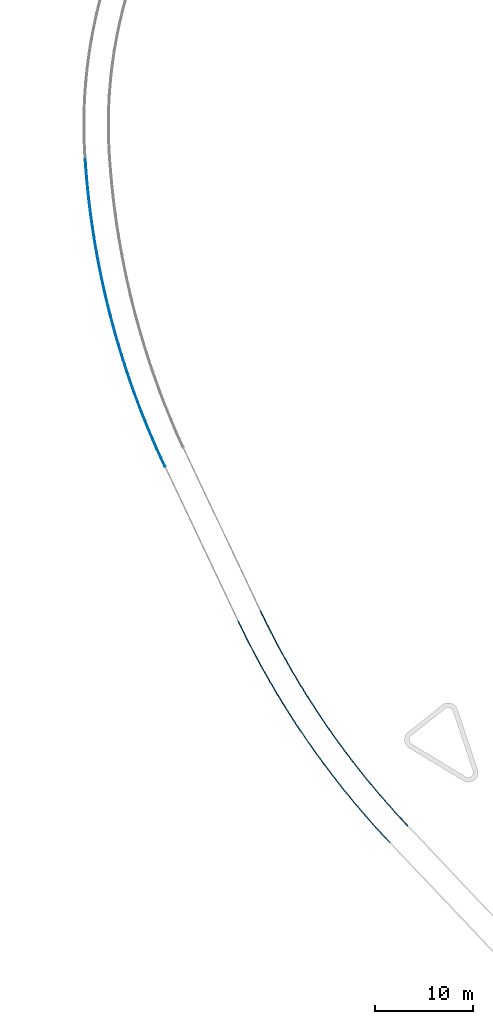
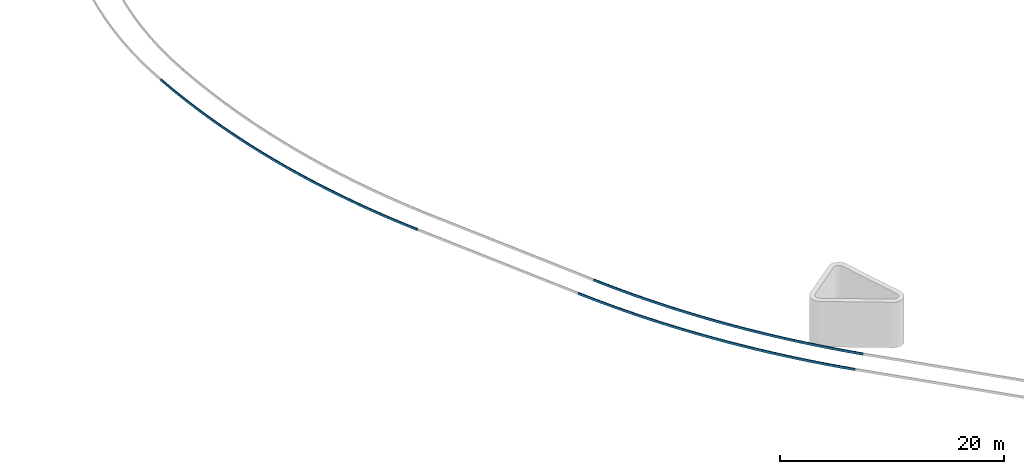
# One storey, part 88 of 112: 3 beams.
"""IFC2X3 building model written with IfcOpenShell, lengths in millimetres."""

from ifc_helpers import new_model, entity, si_unit, converted_unit, derived_unit, direction, frame, origin, place, context, subcontext, project, spatial, faceted_brep, material, type_object, element, save


model = new_model("IFC2X3")

# Units and contexts
model_context = context("Model", 3, precision=0.01, world=origin(), true_north=direction((6.123031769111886e-17, 1.0)))
body_context = subcontext(model_context, "Body", "Model", "MODEL_VIEW")
ifc_project = project(units=[si_unit("LENGTHUNIT", "METRE", prefix="MILLI"), si_unit("AREAUNIT", "SQUARE_METRE"), si_unit("VOLUMEUNIT", "CUBIC_METRE"), converted_unit("PLANEANGLEUNIT", "DEGREE", entity("IfcRatioMeasure", 0.017453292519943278), si_unit("PLANEANGLEUNIT", "RADIAN"), dimensions=[0, 0, 0, 0, 0, 0, 0]), si_unit("MASSUNIT", "GRAM", prefix="KILO"), derived_unit("MASSDENSITYUNIT", [(si_unit("MASSUNIT", "GRAM", prefix="KILO"), 1), (si_unit("LENGTHUNIT", "METRE"), -3)]), derived_unit("MOMENTOFINERTIAUNIT", [(si_unit("LENGTHUNIT", "METRE"), 4)]), si_unit("TIMEUNIT", "SECOND"), si_unit("FREQUENCYUNIT", "HERTZ"), si_unit("THERMODYNAMICTEMPERATUREUNIT", "DEGREE_CELSIUS"), derived_unit("THERMALTRANSMITTANCEUNIT", [(si_unit("MASSUNIT", "GRAM", prefix="KILO"), 1), (si_unit("THERMODYNAMICTEMPERATUREUNIT", "KELVIN"), -1), (si_unit("TIMEUNIT", "SECOND"), -3)]), derived_unit("THERMALCONDUCTANCEUNIT", [(si_unit("MASSUNIT", "GRAM", prefix="KILO"), 1), (si_unit("LENGTHUNIT", "METRE"), 1), (si_unit("THERMODYNAMICTEMPERATUREUNIT", "KELVIN"), -1), (si_unit("TIMEUNIT", "SECOND"), -3)]), derived_unit("VOLUMETRICFLOWRATEUNIT", [(si_unit("LENGTHUNIT", "METRE"), 3), (si_unit("TIMEUNIT", "SECOND"), -1)]), derived_unit("MASSFLOWRATEUNIT", [(si_unit("MASSUNIT", "GRAM", prefix="KILO"), 1), (si_unit("TIMEUNIT", "SECOND"), -1)]), derived_unit("ROTATIONALFREQUENCYUNIT", [(si_unit("TIMEUNIT", "SECOND"), -1)]), si_unit("ELECTRICCURRENTUNIT", "AMPERE"), si_unit("ELECTRICVOLTAGEUNIT", "VOLT"), si_unit("POWERUNIT", "WATT"), converted_unit("FORCEUNIT", "KIP", entity("IfcRatioMeasure", 2.088543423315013e-05), si_unit("FORCEUNIT", "NEWTON"), dimensions=[1, 1, -2, 0, 0, 0, 0]), si_unit("ILLUMINANCEUNIT", "LUX"), si_unit("LUMINOUSFLUXUNIT", "LUMEN"), si_unit("LUMINOUSINTENSITYUNIT", "CANDELA"), derived_unit("USERDEFINED", [(si_unit("MASSUNIT", "GRAM", prefix="KILO"), -1), (si_unit("LENGTHUNIT", "METRE"), -2), (si_unit("TIMEUNIT", "SECOND"), 3), (si_unit("LUMINOUSFLUXUNIT", "LUMEN"), 1)]), derived_unit("USERDEFINED", [(si_unit("MASSUNIT", "GRAM", prefix="KILO"), 1), (si_unit("LENGTHUNIT", "METRE"), 3), (si_unit("TIMEUNIT", "SECOND"), -3), (si_unit("ELECTRICCURRENTUNIT", "AMPERE"), -2)]), derived_unit("USERDEFINED", [(si_unit("LENGTHUNIT", "METRE"), 2), (si_unit("TIMEUNIT", "SECOND"), -2)]), derived_unit("SOUNDPOWERUNIT", [(si_unit("MASSUNIT", "GRAM", prefix="KILO"), 1), (si_unit("LENGTHUNIT", "METRE"), 2), (si_unit("TIMEUNIT", "SECOND"), -3)]), derived_unit("SOUNDPRESSUREUNIT", [(si_unit("MASSUNIT", "GRAM", prefix="KILO"), 1), (si_unit("LENGTHUNIT", "METRE"), -1), (si_unit("TIMEUNIT", "SECOND"), -2)]), derived_unit("LINEARVELOCITYUNIT", [(si_unit("LENGTHUNIT", "METRE"), 1), (si_unit("TIMEUNIT", "SECOND"), -1)]), si_unit("PRESSUREUNIT", "PASCAL"), derived_unit("USERDEFINED", [(si_unit("LENGTHUNIT", "METRE"), -2), (si_unit("MASSUNIT", "GRAM", prefix="KILO"), 1), (si_unit("TIMEUNIT", "SECOND"), -2)]), derived_unit("LINEARFORCEUNIT", [(si_unit("MASSUNIT", "GRAM", prefix="KILO"), 1), (si_unit("LENGTHUNIT", "METRE"), 1), (si_unit("TIMEUNIT", "SECOND"), -2), (si_unit("LENGTHUNIT", "METRE"), -1)]), derived_unit("PLANARFORCEUNIT", [(si_unit("MASSUNIT", "GRAM", prefix="KILO"), 1), (si_unit("LENGTHUNIT", "METRE"), 1), (si_unit("TIMEUNIT", "SECOND"), -2), (si_unit("LENGTHUNIT", "METRE"), -2)]), derived_unit("SPECIFICHEATCAPACITYUNIT", [(si_unit("LENGTHUNIT", "METRE"), 2), (si_unit("TIMEUNIT", "SECOND"), -2), (si_unit("THERMODYNAMICTEMPERATUREUNIT", "KELVIN"), -1)]), derived_unit("VAPORPERMEABILITYUNIT", [(si_unit("TIMEUNIT", "SECOND"), 1), (si_unit("LENGTHUNIT", "METRE"), -1)]), derived_unit("DYNAMICVISCOSITYUNIT", [(si_unit("MASSUNIT", "GRAM", prefix="KILO"), 1), (si_unit("LENGTHUNIT", "METRE"), -1), (si_unit("TIMEUNIT", "SECOND"), -1)]), derived_unit("THERMALEXPANSIONCOEFFICIENTUNIT", [(si_unit("THERMODYNAMICTEMPERATUREUNIT", "KELVIN"), -1)])], contexts=[model_context])

# Site, building, storey
site_placement = place(None, frame((0.0, 0.0, 0.0), z_axis=(0.0, 0.0, 1.0), x_axis=(0.8191520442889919, 0.5735764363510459, 0.0)))
site = spatial("IfcSite", under=ifc_project, at=site_placement, Name="Default", CompositionType="ELEMENT")
building_placement = place(site_placement, origin())
building = spatial("IfcBuilding", under=site, at=building_placement, CompositionType="ELEMENT")
storey_placement = place(building_placement, frame((0.0, 0.0, -3600.0)))
storey = spatial("IfcBuildingStorey", under=building, at=storey_placement, Name="0.UG -3.60", CompositionType="ELEMENT", Elevation=-3600.0000000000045)

# Beams
ifc_material = material(Name="Paveta_bordur")
beam_type_1 = type_object("IfcBeamType", Name="Beam-180", PredefinedType="NOTDEFINED")
beam_1_placement = place(storey_placement, frame((-114850.72193368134, -19554.204899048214, 1860.0)))
element("IfcBeam", 1, at=beam_1_placement, inside=storey, type_object=beam_type_1, material=ifc_material, Name="Beam-180:Beam-180", ObjectType="Beam-180:Beam-180", context=body_context, shape_type="Brep", body=[
    faceted_brep([(1301.0620911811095, 26633.571473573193, 250.0), (1301.0620911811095, 26633.571473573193, 0.0), (1202.482560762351, 26650.36659734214, 0.0), (1202.482560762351, 26650.36659734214, 250.0), (922.9068255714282, 1.5952722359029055, 0.0), (1021.8170191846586, 16.31850555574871, 0.0), (1021.8170191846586, 16.31850555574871, 250.0), (922.9068255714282, 1.5952722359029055, 250.0), (108.74686749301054, 8192.38099732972, 0.0), (69.4332657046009, 9220.904965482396, 0.0), (30.119663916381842, 10249.428933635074, 0.0), (15.85746807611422, 11278.605158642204, 0.0), (1.5952722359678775, 12307.781383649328, 0.0), (12.392936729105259, 13336.999787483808, 0.0), (23.190601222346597, 14366.218191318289, 0.0), (59.0417253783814, 15394.868670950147, 0.0), (94.89284953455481, 16423.519150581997, 0.0), (155.7761814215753, 17450.991939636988, 0.0), (216.65951330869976, 18478.46472869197, 0.0), (302.5389623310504, 19504.150758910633, 0.0), (388.4184113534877, 20529.83678912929, 0.0), (499.243069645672, 21553.128051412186, 0.0), (610.0677279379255, 22576.419313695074, 0.0), (745.771900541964, 23596.709218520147, 0.0), (881.4760731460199, 24616.99912334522, 0.0), (1004.5823994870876, 25396.797692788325, 0.0), (1134.5674364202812, 25619.06603018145, 0.0), (980.4352682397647, 24602.6089285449, 0.0), (838.6884292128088, 23584.350808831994, 0.0), (709.3479263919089, 22564.442578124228, 0.0), (592.4329281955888, 21543.035388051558, 0.0), (487.96076156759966, 20520.2806123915, 0.0), (395.9469094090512, 19496.329824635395, 0.0), (316.40500828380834, 18471.334775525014, 0.0), (249.34684639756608, 17445.447370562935, 0.0), (194.78236185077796, 16418.81964749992, 0.0), (152.71964116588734, 15391.603753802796, 0.0), (123.16491808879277, 14363.95192410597, 0.0), (106.12257266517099, 13336.01645765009, 0.0), (101.59513059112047, 12307.949695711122, 0.0), (109.58326283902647, 11279.903999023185, 0.0), (130.085785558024, 10252.031725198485, 0.0), (163.09966024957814, 9224.485206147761, 0.0), (208.61999421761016, 8197.41672550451, 0.0), (266.64004129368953, 7170.978496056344, 0.0), (337.15120283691, 6145.3226371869, 0.0), (420.1430290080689, 5120.6011523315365, 0.0), (515.6032203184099, 4096.96590645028, 0.0), (623.5176294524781, 3074.5686035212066, 0.0), (743.8702633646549, 2053.5607640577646, 0.0), (876.6432856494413, 1034.0937026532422, 0.0), (783.7688847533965, 1021.4225839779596, 0.0), (644.6309439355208, 2041.2498957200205, 0.0), (530.3622731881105, 3064.162298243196, 0.0), (416.0936024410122, 4087.0747007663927, 0.0), (326.7619382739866, 5112.465829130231, 0.0), (237.43027410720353, 6137.856957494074, 0.0), (173.08857080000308, 7165.118977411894, 0.0), (881.4760731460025, 24616.99912334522, 250.0), (1041.979316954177, 25633.682860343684, 250.0), (610.0677279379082, 22576.419313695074, 250.0), (745.771900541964, 23596.709218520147, 250.0), (302.5389623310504, 19504.150758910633, 250.0), (388.4184113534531, 20529.836789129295, 250.0), (216.6595133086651, 18478.46472869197, 250.0), (59.0417253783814, 15394.868670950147, 250.0), (94.8928495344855, 16423.519150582, 250.0), (23.19060122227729, 14366.21819131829, 250.0), (155.7761814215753, 17450.991939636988, 250.0), (499.2430696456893, 21553.128051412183, 250.0), (1.5952722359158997, 12307.781383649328, 250.0), (12.392936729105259, 13336.999787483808, 250.0), (30.119663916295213, 10249.428933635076, 250.0), (108.74686749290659, 8192.380997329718, 250.0), (69.4332657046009, 9220.904965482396, 250.0), (15.85746807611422, 11278.605158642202, 250.0), (326.7619382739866, 5112.465829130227, 250.0), (237.43027410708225, 6137.856957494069, 250.0), (416.09360244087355, 4087.0747007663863, 250.0), (751.3501185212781, 1259.039606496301, 250.0), (644.6309439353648, 2041.2498957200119, 250.0), (530.3622731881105, 3064.162298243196, 250.0), (173.08857080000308, 7165.118977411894, 250.0), (208.61999421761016, 8197.41672550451, 250.0), (163.09966024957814, 9224.485206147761, 250.0), (130.085785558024, 10252.031725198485, 250.0), (109.58326283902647, 11279.903999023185, 250.0), (101.59513059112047, 12307.949695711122, 250.0), (106.12257266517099, 13336.01645765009, 250.0), (123.16491808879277, 14363.95192410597, 250.0), (152.71964116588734, 15391.603753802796, 250.0), (194.78236185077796, 16418.81964749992, 250.0), (249.34684639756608, 17445.447370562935, 250.0), (316.40500828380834, 18471.334775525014, 250.0), (395.9469094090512, 19496.329824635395, 250.0), (487.96076156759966, 20520.2806123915, 250.0), (592.4329281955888, 21543.035388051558, 250.0), (709.3479263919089, 22564.442578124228, 250.0), (838.6884292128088, 23584.350808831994, 250.0), (980.4352682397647, 24602.6089285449, 250.0), (1134.5674364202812, 25619.06603018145, 250.0), (876.6432856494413, 1034.0937026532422, 250.0), (743.8702633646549, 2053.5607640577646, 250.0), (623.5176294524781, 3074.5686035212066, 250.0), (515.6032203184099, 4096.96590645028, 250.0), (420.1430290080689, 5120.6011523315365, 250.0), (337.15120283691, 6145.3226371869, 250.0), (266.64004129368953, 7170.978496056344, 250.0)], [[[0, 1, 2, 3]], [[4, 5, 6, 7]], [[8, 9, 10, 11, 12, 13, 14, 15, 16, 17, 18, 19, 20, 21, 22, 23, 24, 25, 2, 1, 26, 27, 28, 29, 30, 31, 32, 33, 34, 35, 36, 37, 38, 39, 40, 41, 42, 43, 44, 45, 46, 47, 48, 49, 50, 5, 4, 51, 52, 53, 54, 55, 56, 57]], [[2, 25, 24, 58, 59, 3]], [[58, 24, 23, 22, 60, 61]], [[62, 63, 20, 19, 18, 64]], [[65, 66, 16, 15, 14, 67]], [[68, 64, 18, 17, 16, 66]], [[69, 60, 22, 21, 20, 63]], [[67, 14, 13, 12, 70, 71]], [[72, 10, 9, 8, 73, 74]], [[70, 12, 11, 10, 72, 75]], [[76, 77, 56, 55, 54, 78]], [[51, 4, 7, 79, 80, 52]], [[81, 78, 54, 53, 52, 80]], [[82, 73, 8, 57, 56, 77]], [[83, 84, 85, 86, 87, 88, 89, 90, 91, 92, 93, 94, 95, 96, 97, 98, 99, 100, 0, 3, 59, 58, 61, 60, 69, 63, 62, 64, 68, 66, 65, 67, 71, 70, 75, 72, 74, 73, 82, 77, 76, 78, 81, 80, 79, 7, 6, 101, 102, 103, 104, 105, 106, 107]], [[26, 1, 0, 100]], [[26, 100, 99, 27]], [[97, 96, 30, 29]], [[98, 97, 29, 28]], [[28, 27, 99, 98]], [[94, 93, 33, 32]], [[95, 94, 32, 31]], [[92, 91, 35, 34]], [[90, 89, 37, 36]], [[91, 90, 36, 35]], [[93, 92, 34, 33]], [[96, 95, 31, 30]], [[89, 88, 38, 37]], [[86, 85, 41, 40]], [[87, 86, 40, 39]], [[83, 107, 44, 43]], [[84, 83, 43, 42]], [[85, 84, 42, 41]], [[105, 104, 47, 46]], [[106, 105, 46, 45]], [[103, 102, 49, 48]], [[101, 6, 5, 50]], [[102, 101, 50, 49]], [[104, 103, 48, 47]], [[107, 106, 45, 44]], [[88, 87, 39, 38]]]),
])
beam_type_2 = type_object("IfcBeamType", Name="Beam-177", PredefinedType="NOTDEFINED")
beam_2_placement = place(storey_placement, frame((-113195.94386505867, 24627.173023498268, 1860.0)))
element("IfcBeam", 2, at=beam_2_placement, inside=storey, type_object=beam_type_2, material=ifc_material, Name="Beam-177:Beam-177", ObjectType="Beam-177:Beam-177", context=body_context, shape_type="Brep", body=[
    faceted_brep([(11539.266704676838, 30602.29125588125, 250.0), (11539.266704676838, 30602.29125588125, 0.0), (11453.8431168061, 30654.279818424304, 0.0), (11453.8431168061, 30654.279818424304, 250.0), (1.5952722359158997, 18.390393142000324, 250.0), (1.5952722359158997, 18.390393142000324, 0.0), (100.17480314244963, 1.5952722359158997, 0.0), (100.17480314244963, 1.5952722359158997, 250.0), (2714.642108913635, 10983.78486976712, 0.0), (2418.24360587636, 10000.487274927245, 0.0), (2133.479667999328, 9013.757457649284, 0.0), (1860.390022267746, 8023.733075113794, 0.0), (1599.0127670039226, 7030.552244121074, 0.0), (1349.3843665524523, 6034.35352182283, 0.0), (1111.5396461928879, 5035.275886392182, 0.0), (885.5117872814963, 4033.458717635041, 0.0), (671.3323226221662, 3029.0417775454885, 0.0), (469.03113206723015, 2022.1651908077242, 0.0), (278.6364383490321, 1012.9694252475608, 0.0), (186.23554500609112, 1029.8372673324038, 0.0), (370.8758177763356, 2041.284141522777, 0.0), (579.3556397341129, 3048.0874855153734, 0.0), (787.8354616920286, 4054.8908295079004, 0.0), (1020.0384980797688, 5056.488832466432, 0.0), (1252.2415344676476, 6058.086835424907, 0.0), (1508.0382126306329, 7053.920591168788, 0.0), (1763.834890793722, 8049.754346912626, 0.0), (2043.0824724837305, 9039.26816579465, 0.0), (2322.330054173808, 10028.781984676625, 0.0), (2624.8727151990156, 11011.423703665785, 0.0), (2927.4153762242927, 11994.065422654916, 0.0), (3253.084293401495, 12969.286713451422, 0.0), (3578.753210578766, 13944.508004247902, 0.0), (3927.366655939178, 14911.76467925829, 0.0), (4275.9801012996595, 15879.02135426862, 0.0), (4647.343543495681, 16837.77367027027, 0.0), (5018.706985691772, 17796.525986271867, 0.0), (5412.613198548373, 18746.238945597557, 0.0), (5806.519411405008, 19695.95190492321, 0.0), (6222.748589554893, 20636.095553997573, 0.0), (6638.977767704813, 21576.23920307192, 0.0), (7077.297649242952, 22506.288928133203, 0.0), (7515.617530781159, 23436.338653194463, 0.0), (7975.783526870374, 24355.77547303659, 0.0), (8435.949522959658, 25275.212292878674, 0.0), (8917.70485431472, 26183.52314845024, 0.0), (9399.460185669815, 27091.83400402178, 0.0), (9902.53602584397, 27988.51204472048, 0.0), (10405.611866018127, 28885.19008541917, 0.0), (10797.414366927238, 29546.43137278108, 0.0), (11010.535231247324, 29721.85428390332, 0.0), (10492.239625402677, 28835.23379148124, 0.0), (9984.45219377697, 27942.55346969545, 0.0), (9487.24377702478, 27043.937855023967, 0.0), (9000.683739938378, 26139.51231196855, 0.0), (8524.839961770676, 25229.403015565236, 0.0), (8059.778826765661, 24313.7369337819, 0.0), (7605.565214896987, 23392.641809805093, 0.0), (7162.262492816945, 22466.24614421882, 0.0), (6729.932505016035, 21534.679177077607, 0.0), (6308.635565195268, 20598.070869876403, 0.0), (5898.430447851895, 19656.551887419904, 0.0), (5499.3743800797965, 18710.253579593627, 0.0), (5111.523033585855, 17759.307963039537, 0.0), (4734.930516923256, 16803.84770273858, 0.0), (4369.649367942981, 15844.006093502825, 0.0), (4015.7305464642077, 14879.917041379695, 0.0), (3673.223427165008, 13911.715044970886, 0.0), (3342.1757926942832, 12939.535176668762, 0.0), (3022.6338270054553, 11963.513063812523, 0.0), (10405.611866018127, 28885.19008541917, 250.0), (10929.72749141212, 29769.734951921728, 250.0), (2927.415376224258, 11994.065422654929, 250.0), (3253.084293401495, 12969.286713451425, 250.0), (3578.7532105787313, 13944.508004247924, 250.0), (8917.70485431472, 26183.52314845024, 250.0), (9399.460185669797, 27091.83400402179, 250.0), (8435.949522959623, 25275.212292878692, 250.0), (9902.53602584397, 27988.51204472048, 250.0), (7077.297649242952, 22506.288928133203, 250.0), (7515.617530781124, 23436.338653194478, 250.0), (6638.977767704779, 21576.239203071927, 250.0), (5412.613198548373, 18746.238945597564, 250.0), (5806.519411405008, 19695.95190492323, 250.0), (5018.706985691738, 17796.525986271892, 250.0), (6222.748589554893, 20636.095553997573, 250.0), (7975.783526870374, 24355.77547303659, 250.0), (4275.980101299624, 15879.021354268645, 250.0), (4647.343543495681, 16837.77367027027, 250.0), (2322.3300541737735, 10028.781984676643, 250.0), (2624.8727151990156, 11011.423703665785, 250.0), (1763.8348907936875, 8049.754346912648, 250.0), (2043.0824724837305, 9039.268165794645, 250.0), (1020.0384980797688, 5056.488832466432, 250.0), (1252.2415344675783, 6058.086835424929, 250.0), (787.8354616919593, 4054.890829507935, 250.0), (232.84791924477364, 1285.1766876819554, 250.0), (370.87581777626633, 2041.2841415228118, 250.0), (579.3556397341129, 3048.0874855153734, 250.0), (1508.0382126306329, 7053.920591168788, 250.0), (3927.366655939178, 14911.76467925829, 250.0), (2714.642108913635, 10983.78486976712, 250.0), (3022.6338270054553, 11963.513063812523, 250.0), (3342.1757926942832, 12939.535176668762, 250.0), (3673.223427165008, 13911.715044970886, 250.0), (4015.7305464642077, 14879.917041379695, 250.0), (4369.649367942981, 15844.006093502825, 250.0), (4734.930516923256, 16803.84770273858, 250.0), (5111.523033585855, 17759.307963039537, 250.0), (5499.3743800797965, 18710.253579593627, 250.0), (5898.430447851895, 19656.551887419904, 250.0), (6308.635565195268, 20598.070869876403, 250.0), (6729.932505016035, 21534.679177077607, 250.0), (7162.262492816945, 22466.24614421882, 250.0), (7605.565214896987, 23392.641809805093, 250.0), (8059.778826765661, 24313.7369337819, 250.0), (8524.839961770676, 25229.403015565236, 250.0), (9000.683739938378, 26139.51231196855, 250.0), (9487.24377702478, 27043.937855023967, 250.0), (9984.45219377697, 27942.55346969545, 250.0), (10492.239625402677, 28835.23379148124, 250.0), (11010.535231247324, 29721.85428390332, 250.0), (278.6364383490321, 1012.9694252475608, 250.0), (469.03113206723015, 2022.1651908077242, 250.0), (671.3323226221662, 3029.0417775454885, 250.0), (885.5117872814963, 4033.458717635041, 250.0), (1111.5396461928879, 5035.275886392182, 250.0), (1349.3843665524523, 6034.35352182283, 250.0), (1599.0127670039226, 7030.552244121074, 250.0), (1860.390022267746, 8023.733075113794, 250.0), (2133.479667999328, 9013.757457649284, 250.0), (2418.24360587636, 10000.487274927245, 250.0)], [[[0, 1, 2, 3]], [[4, 5, 6, 7]], [[8, 9, 10, 11, 12, 13, 14, 15, 16, 17, 18, 6, 5, 19, 20, 21, 22, 23, 24, 25, 26, 27, 28, 29, 30, 31, 32, 33, 34, 35, 36, 37, 38, 39, 40, 41, 42, 43, 44, 45, 46, 47, 48, 49, 2, 1, 50, 51, 52, 53, 54, 55, 56, 57, 58, 59, 60, 61, 62, 63, 64, 65, 66, 67, 68, 69]], [[2, 49, 48, 70, 71, 3]], [[30, 72, 73, 74, 32, 31]], [[75, 76, 46, 45, 44, 77]], [[46, 76, 78, 70, 48, 47]], [[79, 80, 42, 41, 40, 81]], [[82, 83, 38, 37, 36, 84]], [[85, 81, 40, 39, 38, 83]], [[86, 77, 44, 43, 42, 80]], [[34, 87, 88, 84, 36, 35]], [[72, 30, 29, 28, 89, 90]], [[89, 28, 27, 26, 91, 92]], [[93, 94, 24, 23, 22, 95]], [[19, 5, 4, 96, 97, 20]], [[98, 95, 22, 21, 20, 97]], [[99, 91, 26, 25, 24, 94]], [[100, 87, 34, 33, 32, 74]], [[101, 102, 103, 104, 105, 106, 107, 108, 109, 110, 111, 112, 113, 114, 115, 116, 117, 118, 119, 120, 121, 0, 3, 71, 70, 78, 76, 75, 77, 86, 80, 79, 81, 85, 83, 82, 84, 88, 87, 100, 74, 73, 72, 90, 89, 92, 91, 99, 94, 93, 95, 98, 97, 96, 4, 7, 122, 123, 124, 125, 126, 127, 128, 129, 130, 131]], [[50, 1, 0, 121]], [[51, 50, 121, 120]], [[52, 51, 120, 119]], [[118, 117, 54, 53]], [[116, 115, 56, 55]], [[117, 116, 55, 54]], [[119, 118, 53, 52]], [[114, 113, 58, 57]], [[112, 111, 60, 59]], [[113, 112, 59, 58]], [[110, 109, 62, 61]], [[108, 107, 64, 63]], [[109, 108, 63, 62]], [[111, 110, 61, 60]], [[115, 114, 57, 56]], [[107, 106, 65, 64]], [[105, 104, 67, 66]], [[103, 102, 69, 68]], [[104, 103, 68, 67]], [[101, 131, 9, 8]], [[130, 129, 11, 10]], [[131, 130, 10, 9]], [[102, 101, 8, 69]], [[128, 127, 13, 12]], [[126, 125, 15, 14]], [[127, 126, 14, 13]], [[124, 123, 17, 16]], [[122, 7, 6, 18]], [[123, 122, 18, 17]], [[125, 124, 16, 15]], [[129, 128, 12, 11]], [[105, 66, 65, 106]]]),
])
beam_type_3 = type_object("IfcBeamType", Name="Beam-180", PredefinedType="NOTDEFINED")
beam_3_placement = place(storey_placement, frame((-117349.9090424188, -19922.287390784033, 1860.0)))
element("IfcBeam", 3, at=beam_3_placement, inside=storey, type_object=beam_type_3, material=ifc_material, Name="Beam-180 228304:Beam-180 228304", ObjectType="Beam-180 228304:Beam-180 228304", context=body_context, shape_type="Brep", body=[
    faceted_brep([(1335.760146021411, 27421.527402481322, 250.0), (1335.760146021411, 27421.527402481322, 0.0), (1237.180614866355, 27438.322521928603, 0.0), (1237.180614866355, 27438.322521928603, 250.0), (949.3393408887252, 1.5952722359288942, 0.0), (1048.2495340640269, 16.3185084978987, 0.0), (1048.2495340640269, 16.3185084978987, 250.0), (949.3393408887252, 1.5952722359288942, 250.0), (178.30328660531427, 9144.52296926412, 0.0), (227.337713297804, 8126.3956316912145, 0.0), (288.30398621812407, 7108.913069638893, 0.0), (361.19372696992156, 6092.215112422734, 0.0), (445.99691855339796, 5076.441481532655, 0.0), (542.7019067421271, 4061.7317714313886, 0.0), (651.2954016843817, 3048.2254303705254, 0.0), (771.7624797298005, 2036.0617412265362, 0.0), (904.0865854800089, 1025.3798023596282, 0.0), (810.9368217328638, 1012.6283281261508, 0.0), (672.5343025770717, 2023.66138401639, 0.0), (557.8722963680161, 3037.661246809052, 0.0), (443.21029015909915, 4051.661109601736, 0.0), (352.35182523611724, 5068.070395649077, 0.0), (261.49336031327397, 6084.479681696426, 0.0), (194.48838049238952, 7102.7396829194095, 0.0), (127.48340067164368, 8120.999684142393, 0.0), (84.36873779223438, 9140.5506751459, 0.0), (41.25407491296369, 10160.101666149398, 0.0), (22.053428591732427, 11180.383211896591, 0.0), (2.8527822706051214, 12200.664757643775, 0.0), (18.910085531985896, 13731.230002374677, 0.0), (34.967388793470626, 15261.795247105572, 0.0), (75.56919148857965, 16281.449399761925, 0.0), (116.17099418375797, 17301.103552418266, 0.0), (180.66622296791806, 18319.525597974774, 0.0), (245.16145175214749, 19337.947643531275, 0.0), (333.51465436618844, 20354.577767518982, 0.0), (421.86785698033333, 21371.207891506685, 0.0), (534.0304667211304, 22385.48726445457, 0.0), (646.1930764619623, 23399.766637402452, 0.0), (782.1034388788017, 24411.137722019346, 0.0), (918.0138012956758, 25422.508806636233, 0.0), (1077.5972080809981, 26430.41566428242, 0.0), (1170.458945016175, 26415.71272598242, 0.0), (1016.959980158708, 25408.029383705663, 0.0), (875.2843463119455, 24398.615858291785, 0.0), (745.4515134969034, 23387.610870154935, 0.0), (627.4793242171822, 22375.15335841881, 0.0), (521.3839910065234, 21361.382461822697, 0.0), (427.18009420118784, 20346.437499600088, 0.0), (344.88057993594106, 19330.457952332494, 0.0), (274.49675836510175, 18313.58344278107, 0.0), (216.03830210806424, 17295.953716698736, 0.0), (169.51324492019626, 16277.708623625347, 0.0), (134.92798058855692, 15258.988097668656, 0.0), (112.28726205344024, 14239.932138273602, 0.0), (101.59420075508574, 13220.680790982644, 0.0), (102.85026620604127, 12201.374128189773, 0.0), (116.05528578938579, 11182.152229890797, 0.0), (141.20744478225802, 10163.155164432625, 0.0), (918.0138012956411, 25422.508806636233, 250.0), (1077.5972080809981, 26430.41566428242, 250.0), (34.96738879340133, 15261.79524710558, 250.0), (2.8527822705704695, 12200.664757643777, 250.0), (18.910085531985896, 13731.230002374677, 250.0), (646.1930764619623, 23399.766637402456, 250.0), (782.1034388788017, 24411.137722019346, 250.0), (333.5146543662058, 20354.577767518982, 250.0), (421.86785698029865, 21371.207891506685, 250.0), (245.16145175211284, 19337.94764353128, 250.0), (75.56919148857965, 16281.449399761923, 250.0), (116.17099418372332, 17301.103552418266, 250.0), (180.66622296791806, 18319.52559797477, 250.0), (534.0304667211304, 22385.48726445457, 250.0), (41.25407491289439, 10160.101666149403, 250.0), (127.48340067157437, 8120.999684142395, 250.0), (84.36873779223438, 9140.5506751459, 250.0), (22.053428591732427, 11180.383211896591, 250.0), (352.35182523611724, 5068.070395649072, 250.0), (261.4933603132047, 6084.479681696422, 250.0), (443.21029015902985, 4051.6611096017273, 250.0), (774.689178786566, 1277.4180547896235, 250.0), (672.5343025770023, 2023.661384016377, 250.0), (557.8722963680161, 3037.661246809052, 250.0), (194.48838049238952, 7102.739682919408, 250.0), (178.30328660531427, 9144.52296926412, 250.0), (141.20744478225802, 10163.155164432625, 250.0), (116.05528578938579, 11182.152229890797, 250.0), (102.85026620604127, 12201.374128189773, 250.0), (101.59420075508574, 13220.680790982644, 250.0), (112.28726205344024, 14239.932138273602, 250.0), (134.92798058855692, 15258.988097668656, 250.0), (169.51324492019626, 16277.708623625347, 250.0), (216.03830210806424, 17295.953716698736, 250.0), (274.49675836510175, 18313.58344278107, 250.0), (344.88057993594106, 19330.457952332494, 250.0), (427.18009420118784, 20346.437499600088, 250.0), (521.3839910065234, 21361.382461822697, 250.0), (627.4793242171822, 22375.15335841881, 250.0), (745.4515134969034, 23387.610870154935, 250.0), (875.2843463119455, 24398.615858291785, 250.0), (1016.959980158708, 25408.029383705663, 250.0), (1170.458945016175, 26415.71272598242, 250.0), (904.0865854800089, 1025.3798023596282, 250.0), (771.7624797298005, 2036.0617412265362, 250.0), (651.2954016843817, 3048.2254303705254, 250.0), (542.7019067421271, 4061.7317714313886, 250.0), (445.99691855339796, 5076.441481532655, 250.0), (361.19372696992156, 6092.215112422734, 250.0), (288.30398621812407, 7108.913069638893, 250.0), (227.337713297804, 8126.3956316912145, 250.0)], [[[0, 1, 2, 3]], [[4, 5, 6, 7]], [[8, 9, 10, 11, 12, 13, 14, 15, 16, 5, 4, 17, 18, 19, 20, 21, 22, 23, 24, 25, 26, 27, 28, 29, 30, 31, 32, 33, 34, 35, 36, 37, 38, 39, 40, 41, 2, 1, 42, 43, 44, 45, 46, 47, 48, 49, 50, 51, 52, 53, 54, 55, 56, 57, 58]], [[40, 59, 60, 3, 2, 41]], [[61, 30, 29, 28, 62, 63]], [[38, 64, 65, 59, 40, 39]], [[66, 67, 36, 35, 34, 68]], [[69, 70, 32, 31, 30, 61]], [[71, 68, 34, 33, 32, 70]], [[72, 64, 38, 37, 36, 67]], [[73, 26, 25, 24, 74, 75]], [[62, 28, 27, 26, 73, 76]], [[77, 78, 22, 21, 20, 79]], [[17, 4, 7, 80, 81, 18]], [[82, 79, 20, 19, 18, 81]], [[83, 74, 24, 23, 22, 78]], [[84, 85, 86, 87, 88, 89, 90, 91, 92, 93, 94, 95, 96, 97, 98, 99, 100, 101, 0, 3, 60, 59, 65, 64, 72, 67, 66, 68, 71, 70, 69, 61, 63, 62, 76, 73, 75, 74, 83, 78, 77, 79, 82, 81, 80, 7, 6, 102, 103, 104, 105, 106, 107, 108, 109]], [[42, 1, 0, 101]], [[42, 101, 100, 43]], [[99, 98, 45, 44]], [[97, 96, 47, 46]], [[98, 97, 46, 45]], [[44, 43, 100, 99]], [[94, 93, 50, 49]], [[95, 94, 49, 48]], [[92, 91, 52, 51]], [[90, 89, 54, 53]], [[91, 90, 53, 52]], [[93, 92, 51, 50]], [[96, 95, 48, 47]], [[89, 88, 55, 54]], [[87, 86, 57, 56]], [[88, 87, 56, 55]], [[85, 84, 8, 58]], [[109, 108, 10, 9]], [[84, 109, 9, 8]], [[86, 85, 58, 57]], [[106, 105, 13, 12]], [[107, 106, 12, 11]], [[104, 103, 15, 14]], [[102, 6, 5, 16]], [[103, 102, 16, 15]], [[105, 104, 14, 13]], [[108, 107, 11, 10]]]),
])

save(model, "model.ifc")
